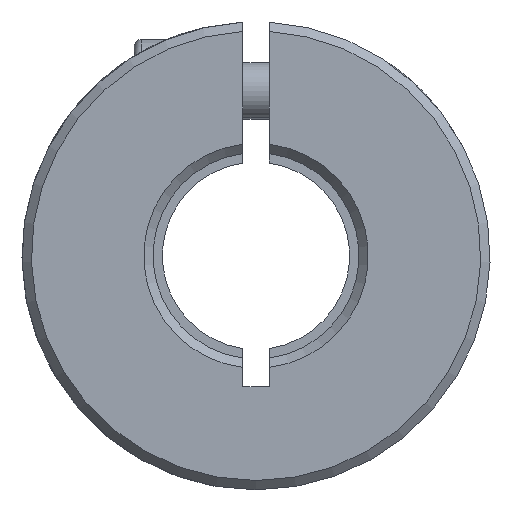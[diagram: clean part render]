
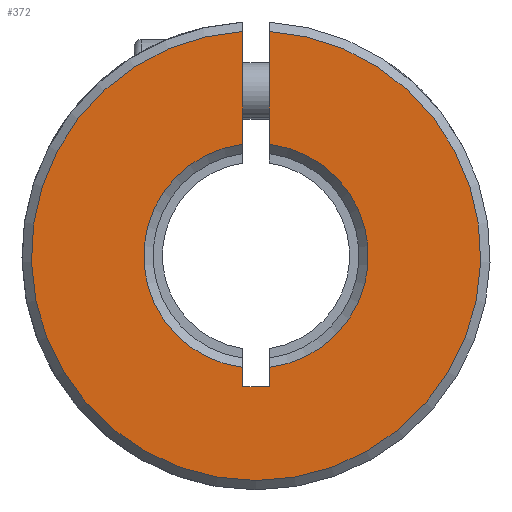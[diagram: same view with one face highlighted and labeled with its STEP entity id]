
A CAD part, front view. The second image highlights one B-rep face of the part: STEP entity #372.
In plain terms, the highlighted planar face has unit normal (0, -1, 0).
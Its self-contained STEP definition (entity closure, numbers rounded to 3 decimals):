
#102 = VERTEX_POINT ( 'NONE', #4432 ) ;
#164 = CIRCLE ( 'NONE', #4362, 6. ) ;
#260 = DIRECTION ( 'NONE',  ( 0., 0., 1. ) ) ;
#372 = ADVANCED_FACE ( 'NONE', ( #3996 ), #4093, .F. ) ;
#441 = VERTEX_POINT ( 'NONE', #3608 ) ;
#453 = DIRECTION ( 'NONE',  ( 0., 0., 1. ) ) ;
#473 = DIRECTION ( 'NONE',  ( 0., 0., 1. ) ) ;
#480 = CARTESIAN_POINT ( 'NONE',  ( 0.7, 0.25, -7. ) ) ;
#550 = EDGE_LOOP ( 'NONE', ( #5357, #3946, #803, #663, #1384, #4660, #3194, #3071 ) ) ;
#567 = CARTESIAN_POINT ( 'NONE',  ( -0.7, 0.25, 11.98 ) ) ;
#663 = ORIENTED_EDGE ( 'NONE', *, *, #5192, .F. ) ;
#772 = EDGE_CURVE ( 'NONE', #1085, #1023, #1476, .T. ) ;
#803 = ORIENTED_EDGE ( 'NONE', *, *, #1062, .F. ) ;
#918 = DIRECTION ( 'NONE',  ( 0., -1., 0. ) ) ;
#1023 = VERTEX_POINT ( 'NONE', #2066 ) ;
#1045 = DIRECTION ( 'NONE',  ( 0., 0., -1. ) ) ;
#1062 = EDGE_CURVE ( 'NONE', #4687, #3523, #5107, .T. ) ;
#1085 = VERTEX_POINT ( 'NONE', #2580 ) ;
#1097 = CARTESIAN_POINT ( 'NONE',  ( 0.7, 0.25, 5.959 ) ) ;
#1337 = CARTESIAN_POINT ( 'NONE',  ( 0., 0.25, 0. ) ) ;
#1384 = ORIENTED_EDGE ( 'NONE', *, *, #772, .F. ) ;
#1476 = LINE ( 'NONE', #5302, #4380 ) ;
#1519 = EDGE_CURVE ( 'NONE', #3752, #441, #2245, .T. ) ;
#1574 = CIRCLE ( 'NONE', #2288, 6. ) ;
#1720 = EDGE_CURVE ( 'NONE', #2426, #441, #3781, .T. ) ;
#1728 = LINE ( 'NONE', #4259, #2250 ) ;
#1879 = CARTESIAN_POINT ( 'NONE',  ( -0.7, 0.25, -7. ) ) ;
#2066 = CARTESIAN_POINT ( 'NONE',  ( -0.7, 0.25, -7. ) ) ;
#2188 = VECTOR ( 'NONE', #3066, 1000. ) ;
#2245 = LINE ( 'NONE', #480, #4551 ) ;
#2250 = VECTOR ( 'NONE', #3802, 1000. ) ;
#2288 = AXIS2_PLACEMENT_3D ( 'NONE', #1337, #3033, #4682 ) ;
#2421 = VECTOR ( 'NONE', #5271, 1000. ) ;
#2426 = VERTEX_POINT ( 'NONE', #567 ) ;
#2580 = CARTESIAN_POINT ( 'NONE',  ( -0.7, 0.25, -5.959 ) ) ;
#2889 = AXIS2_PLACEMENT_3D ( 'NONE', #4453, #3282, #260 ) ;
#3033 = DIRECTION ( 'NONE',  ( 0., 1., 0. ) ) ;
#3066 = DIRECTION ( 'NONE',  ( 0., 0., 1. ) ) ;
#3071 = ORIENTED_EDGE ( 'NONE', *, *, #1720, .T. ) ;
#3194 = ORIENTED_EDGE ( 'NONE', *, *, #4927, .F. ) ;
#3282 = DIRECTION ( 'NONE',  ( 0., 1., 0. ) ) ;
#3328 = CARTESIAN_POINT ( 'NONE',  ( 0., 0.25, 0. ) ) ;
#3438 = AXIS2_PLACEMENT_3D ( 'NONE', #4241, #918, #473 ) ;
#3523 = VERTEX_POINT ( 'NONE', #4582 ) ;
#3608 = CARTESIAN_POINT ( 'NONE',  ( 0.7, 0.25, 11.98 ) ) ;
#3752 = VERTEX_POINT ( 'NONE', #1097 ) ;
#3781 = CIRCLE ( 'NONE', #3438, 12. ) ;
#3802 = DIRECTION ( 'NONE',  ( 1., 0., 0. ) ) ;
#3946 = ORIENTED_EDGE ( 'NONE', *, *, #4811, .T. ) ;
#3996 = FACE_OUTER_BOUND ( 'NONE', #550, .T. ) ;
#4052 = CARTESIAN_POINT ( 'NONE',  ( 0.7, 0.25, -7. ) ) ;
#4093 = PLANE ( 'NONE',  #2889 ) ;
#4106 = LINE ( 'NONE', #1879, #2421 ) ;
#4241 = CARTESIAN_POINT ( 'NONE',  ( 0., 0.25, 0. ) ) ;
#4259 = CARTESIAN_POINT ( 'NONE',  ( 0.7, 0.25, -7. ) ) ;
#4343 = EDGE_CURVE ( 'NONE', #1085, #102, #1574, .T. ) ;
#4362 = AXIS2_PLACEMENT_3D ( 'NONE', #3328, #5378, #5021 ) ;
#4380 = VECTOR ( 'NONE', #1045, 1000. ) ;
#4432 = CARTESIAN_POINT ( 'NONE',  ( -0.7, 0.25, 5.959 ) ) ;
#4453 = CARTESIAN_POINT ( 'NONE',  ( 12.5, 0.25, -50. ) ) ;
#4551 = VECTOR ( 'NONE', #453, 1000. ) ;
#4582 = CARTESIAN_POINT ( 'NONE',  ( 0.7, 0.25, -5.959 ) ) ;
#4660 = ORIENTED_EDGE ( 'NONE', *, *, #4343, .T. ) ;
#4682 = DIRECTION ( 'NONE',  ( 0., 0., 1. ) ) ;
#4687 = VERTEX_POINT ( 'NONE', #4052 ) ;
#4739 = CARTESIAN_POINT ( 'NONE',  ( 0.7, 0.25, -7. ) ) ;
#4811 = EDGE_CURVE ( 'NONE', #3752, #3523, #164, .T. ) ;
#4927 = EDGE_CURVE ( 'NONE', #2426, #102, #4106, .T. ) ;
#5021 = DIRECTION ( 'NONE',  ( 0., 0., 1. ) ) ;
#5107 = LINE ( 'NONE', #4739, #2188 ) ;
#5192 = EDGE_CURVE ( 'NONE', #1023, #4687, #1728, .T. ) ;
#5271 = DIRECTION ( 'NONE',  ( 0., 0., -1. ) ) ;
#5302 = CARTESIAN_POINT ( 'NONE',  ( -0.7, 0.25, -7. ) ) ;
#5357 = ORIENTED_EDGE ( 'NONE', *, *, #1519, .F. ) ;
#5378 = DIRECTION ( 'NONE',  ( 0., 1., 0. ) ) ;
